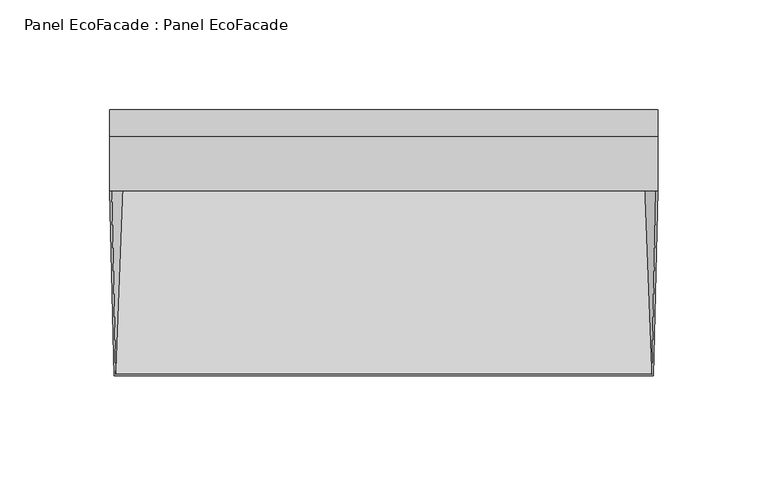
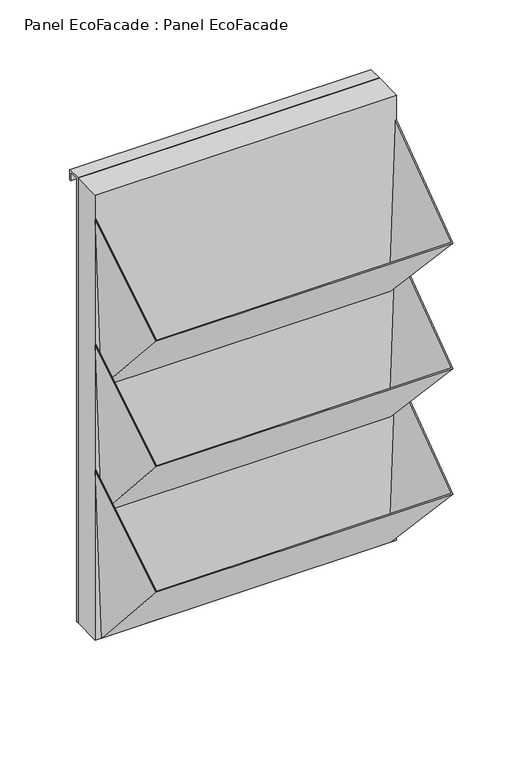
"""IFC4 building model written with IfcOpenShell, lengths in millimetres: plate geometry, Panel EcoFacade : Panel EcoFacade."""

from ifc_helpers import new_model, si_unit, frame, origin, origin_with_axes, place, context, project, spatial, polyline, outline, extrude, faceted_brep, source, transform, mapped, element, save


def panel_ecofacade_panel_ecofacade_10492d0d(model_context):
    return source(origin(), model_context, "Body", "SolidModel", [
        faceted_brep([(-124.180785, 0.0, 368.5882353), (-119.0333837, 0.0, 221.185948), (119.0333837, 0.0, 221.185948), (124.180785, 0.0, 368.5882353), (124.9812727, 0.0, 368.5882353), (119.7924572, 0.0, 220.0), (-119.7924572, 0.0, 220.0), (-124.9812727, 0.0, 368.5882353), (-123.0102218, -84.2, 312.1447224), (-122.225466, -83.5279628, 312.5952229), (123.0102218, -84.2, 312.1447224), (122.225466, -83.5279628, 312.5952229)], [[[0, 1, 2, 3, 4, 5, 6, 7]], [[6, 8, 7]], [[1, 0, 9]], [[0, 7, 8, 10, 4, 3, 11, 9]], [[5, 10, 8, 6]], [[1, 9, 11, 2]], [[4, 10, 5]], [[3, 2, 11]]]),
        faceted_brep([(-124.180785, 0.0, 258.5882353), (-119.0333837, 0.0, 111.185948), (119.0333837, 0.0, 111.185948), (124.180785, 0.0, 258.5882353), (124.9812727, 0.0, 258.5882353), (119.7924572, 0.0, 110.0), (-119.7924572, 0.0, 110.0), (-124.9812727, 0.0, 258.5882353), (-123.0102218, -84.2, 202.1447224), (-122.225466, -83.5279628, 202.5952229), (123.0102218, -84.2, 202.1447224), (122.225466, -83.5279628, 202.5952229)], [[[0, 1, 2, 3, 4, 5, 6, 7]], [[6, 8, 7]], [[1, 0, 9]], [[0, 7, 8, 10, 4, 3, 11, 9]], [[5, 10, 8, 6]], [[1, 9, 11, 2]], [[4, 10, 5]], [[3, 2, 11]]]),
        faceted_brep([(-124.180785, 0.0, 148.5882353), (-119.0333837, 0.0, 1.185948), (119.0333837, 0.0, 1.185948), (124.180785, 0.0, 148.5882353), (124.9812727, 0.0, 148.5882353), (119.7924572, 0.0, 0.0), (-119.7924572, 0.0, 0.0), (-124.9812727, 0.0, 148.5882353), (-123.0102218, -84.2, 92.1447224), (-122.225466, -83.5279628, 92.5952229), (123.0102218, -84.2, 92.1447224), (122.225466, -83.5279628, 92.5952229)], [[[0, 1, 2, 3, 4, 5, 6, 7]], [[6, 8, 7]], [[1, 0, 9]], [[0, 7, 8, 10, 4, 3, 11, 9]], [[5, 10, 8, 6]], [[1, 9, 11, 2]], [[4, 10, 5]], [[3, 2, 11]]]),
        extrude(outline(polyline([(26.5, 0.0), (25.0, 0.0), (25.0, 390.0), (37.0, 390.0), (37.0, 381.0), (35.5, 381.0), (35.5, 388.5), (26.5, 388.5), (26.5, 0.0)])), frame((-125.0000001, 0.0, 0.0), z_axis=(1.0, 0.0, 0.0), x_axis=(0.0, 1.0, 0.0)), (0.0, 0.0, 1.0), 250.0),
        extrude(outline(polyline([(125.0, 25.0), (125.0, 0.0), (-125.0, 0.0), (-125.0, 25.0), (125.0, 25.0)])), origin_with_axes(), (0.0, 0.0, 1.0), 390.0),
    ])


if __name__ == "__main__":
    model = new_model("IFC4")
    model_context = context("Model", 3, world=origin())
    ifc_project = project(units=[si_unit("LENGTHUNIT", "METRE", prefix="MILLI")], contexts=[model_context])
    site = spatial("IfcSite", under=ifc_project)
    building = spatial("IfcBuilding", under=site)
    placement = place(None, origin())
    panel_ecofacade_panel_ecofacade_shape = panel_ecofacade_panel_ecofacade_10492d0d(model_context)
    element("IfcPlate", 1, ObjectType="Panel EcoFacade : Panel EcoFacade", at=placement, inside=building, context=model_context, shape_type="MappedRepresentation", body=[
        mapped(panel_ecofacade_panel_ecofacade_shape, transform((0.0, 0.0, 0.0), x_axis=(1.0, 0.0, 0.0), y_axis=(0.0, 1.0, 0.0), z_axis=(0.0, 0.0, 1.0))),
    ])
    save(model, "model.ifc")
